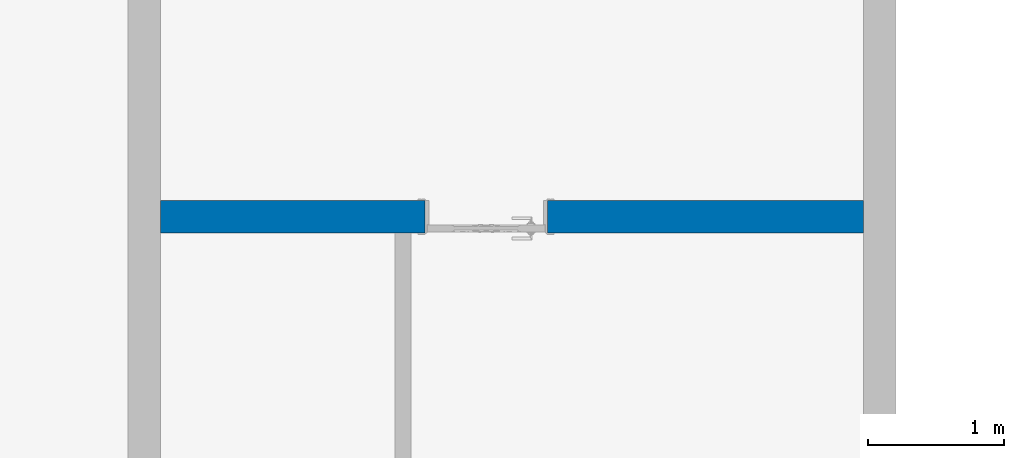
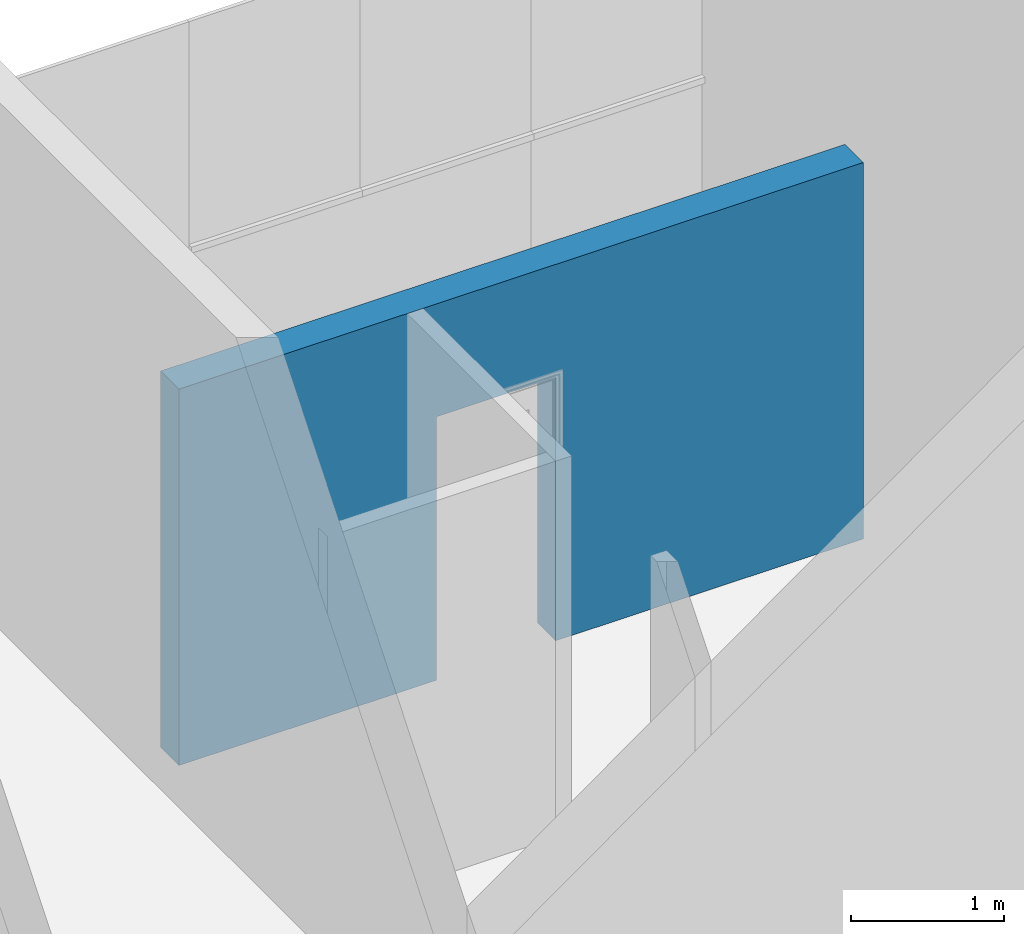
# One storey, part 25 of 33: 1 wall, 1 opening.
"""IFC2X3 building model written with IfcOpenShell, lengths in millimetres."""

from ifc_helpers import new_model, entity, si_unit, converted_unit, derived_unit, direction, frame, frame_2d, origin, place, context, subcontext, project, spatial, rectangle, extrude, material, layer, layer_set, layer_usage, type_object, element, save


model = new_model("IFC2X3")

# Units and contexts
model_context = context("Model", 3, precision=0.01, world=origin(), true_north=direction((6.12303176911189e-17, 1.0)))
body_context = subcontext(model_context, "Body", "Model", "MODEL_VIEW")
ifc_project = project(units=[si_unit("LENGTHUNIT", "METRE", prefix="MILLI"), si_unit("AREAUNIT", "SQUARE_METRE"), si_unit("VOLUMEUNIT", "CUBIC_METRE"), converted_unit("PLANEANGLEUNIT", "DEGREE", entity("IfcRatioMeasure", 0.0174532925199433), si_unit("PLANEANGLEUNIT", "RADIAN"), dimensions=[0, 0, 0, 0, 0, 0, 0]), si_unit("MASSUNIT", "GRAM", prefix="KILO"), derived_unit("MASSDENSITYUNIT", [(si_unit("MASSUNIT", "GRAM", prefix="KILO"), 1), (si_unit("LENGTHUNIT", "METRE"), -3)]), si_unit("TIMEUNIT", "SECOND"), si_unit("FREQUENCYUNIT", "HERTZ"), si_unit("THERMODYNAMICTEMPERATUREUNIT", "DEGREE_CELSIUS"), derived_unit("THERMALTRANSMITTANCEUNIT", [(si_unit("MASSUNIT", "GRAM", prefix="KILO"), 1), (si_unit("THERMODYNAMICTEMPERATUREUNIT", "KELVIN"), -1), (si_unit("TIMEUNIT", "SECOND"), -3)]), derived_unit("VOLUMETRICFLOWRATEUNIT", [(si_unit("LENGTHUNIT", "METRE"), 3), (si_unit("TIMEUNIT", "SECOND"), -1)]), si_unit("ELECTRICCURRENTUNIT", "AMPERE"), si_unit("ELECTRICVOLTAGEUNIT", "VOLT"), si_unit("POWERUNIT", "WATT"), si_unit("FORCEUNIT", "NEWTON", prefix="KILO"), si_unit("ILLUMINANCEUNIT", "LUX"), si_unit("LUMINOUSFLUXUNIT", "LUMEN"), si_unit("LUMINOUSINTENSITYUNIT", "CANDELA"), derived_unit("USERDEFINED", [(si_unit("MASSUNIT", "GRAM", prefix="KILO"), -1), (si_unit("LENGTHUNIT", "METRE"), -2), (si_unit("TIMEUNIT", "SECOND"), 3), (si_unit("LUMINOUSFLUXUNIT", "LUMEN"), 1)]), derived_unit("LINEARVELOCITYUNIT", [(si_unit("LENGTHUNIT", "METRE"), 1), (si_unit("TIMEUNIT", "SECOND"), -1)]), si_unit("PRESSUREUNIT", "PASCAL"), derived_unit("USERDEFINED", [(si_unit("LENGTHUNIT", "METRE"), -2), (si_unit("MASSUNIT", "GRAM", prefix="KILO"), 1), (si_unit("TIMEUNIT", "SECOND"), -2)])], contexts=[model_context])

# Site, building, storey
site_placement = place(None, origin())
site = spatial("IfcSite", under=ifc_project, at=site_placement, Name="表面", CompositionType="ELEMENT")
building_placement = place(site_placement, origin())
building = spatial("IfcBuilding", under=site, at=building_placement, CompositionType="ELEMENT")
storey_placement = place(building_placement, frame((0.0, 0.0, 6000.0)))
storey = spatial("IfcBuildingStorey", under=building, at=storey_placement, Name="3F", CompositionType="ELEMENT", Elevation=6000.00000000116)

# Wall, opening
ifc_material_1 = material(Name="白色涂料")
ifc_layer_1 = layer(ifc_material_1, 10.0)
ifc_material_2 = material(Name="默认墙")
ifc_layer_2 = layer(ifc_material_2, 220.0)
ifc_layer_3 = layer(ifc_material_1, 10.0)
ifc_layer_set = layer_set([ifc_layer_1, ifc_layer_2, ifc_layer_3], Name="基本墙:粉刷墙240")
ifc_layer_usage = layer_usage(ifc_layer_set, "AXIS2", "NEGATIVE", 120.0)
wall_type = type_object("IfcWallType", Name="基本墙:粉刷墙240", PredefinedType="STANDARD", material=ifc_layer_set)
wall_placement = place(storey_placement, frame((-6750.24991264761, 1683.13157334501, 0.0), z_axis=(0.0, 0.0, 1.0), x_axis=(-1.0, 0.0, 0.0)))
wall = element("IfcWallStandardCase", 1, at=wall_placement, inside=storey, type_object=wall_type, material=ifc_layer_usage, Name="基本墙:粉刷墙240", ObjectType="基本墙:粉刷墙240", context=body_context, shape_type="SweptSolid", body=[
    extrude(rectangle(XDim=5160.00000000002, YDim=240.0, at=frame_2d((2580.00000000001, -1.13686837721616e-13), x_axis=(-1.0, 0.0))), origin(), (0.0, 0.0, 1.0), 3000.0),
])
opening_placement = place(wall_placement, frame((2320.0, -120.0, 1.15433635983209e-09)))
element("IfcOpeningElement", 2, at=opening_placement, cuts=wall, Name="装饰木门:M0921:1", ObjectType="Opening", context=body_context, shape_type="SweptSolid", body=[
    extrude(rectangle(XDim=2099.99999999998, YDim=900.0, at=frame_2d((1049.99999999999, 450.0), x_axis=(1.0, 0.0))), frame((0.0, 0.0, 0.0), z_axis=(0.0, 1.0, 0.0), x_axis=(0.0, 0.0, 1.0)), (0.0, 0.0, 1.0), 240.0),
])

save(model, "model.ifc")
